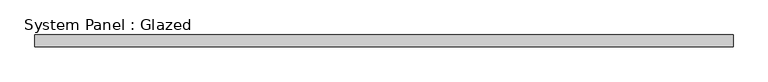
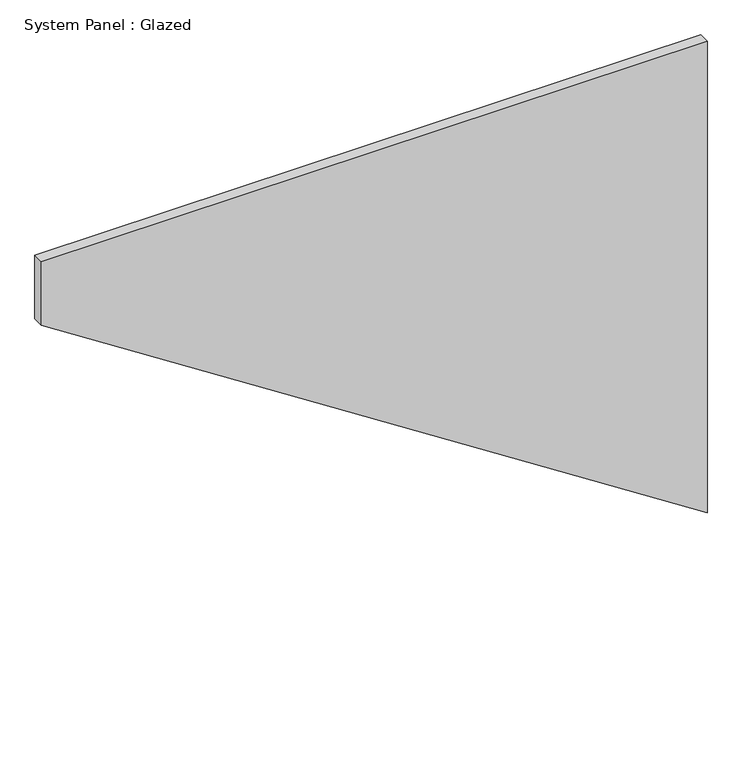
"""IFC4 building model written with IfcOpenShell, lengths in millimetres: plate geometry, System Panel : Glazed."""

from ifc_helpers import new_model, si_unit, frame, origin, place, context, project, spatial, polyline, outline, extrude, source, transform, mapped, element, save


def system_panel_glazed_ed64276a(model_context):
    return source(origin(), model_context, "Body", "SweptSolid", [
        extrude(outline(polyline([(952.4450444, -735.8695652), (0.0, 735.8695652), (1100.4620039, 735.8695652), (1100.4620039, -735.8695652), (952.4450444, -735.8695652)])), frame((0.0, 24.5, 0.0), z_axis=(0.0, 1.0, 0.0), x_axis=(0.0, 0.0, 1.0)), (0.0, 0.0, 1.0), 25.0),
    ])


if __name__ == "__main__":
    model = new_model("IFC4")
    model_context = context("Model", 3, world=origin())
    ifc_project = project(units=[si_unit("LENGTHUNIT", "METRE", prefix="MILLI")], contexts=[model_context])
    site = spatial("IfcSite", under=ifc_project)
    building = spatial("IfcBuilding", under=site)
    placement = place(None, origin())
    system_panel_glazed_shape = system_panel_glazed_ed64276a(model_context)
    element("IfcPlate", 1, ObjectType="System Panel : Glazed", at=placement, inside=building, context=model_context, shape_type="MappedRepresentation", body=[
        mapped(system_panel_glazed_shape, transform((0.0, 0.0, 0.0), x_axis=(1.0, 0.0, 0.0), y_axis=(0.0, 1.0, 0.0), z_axis=(0.0, 0.0, 1.0))),
    ])
    save(model, "model.ifc")
